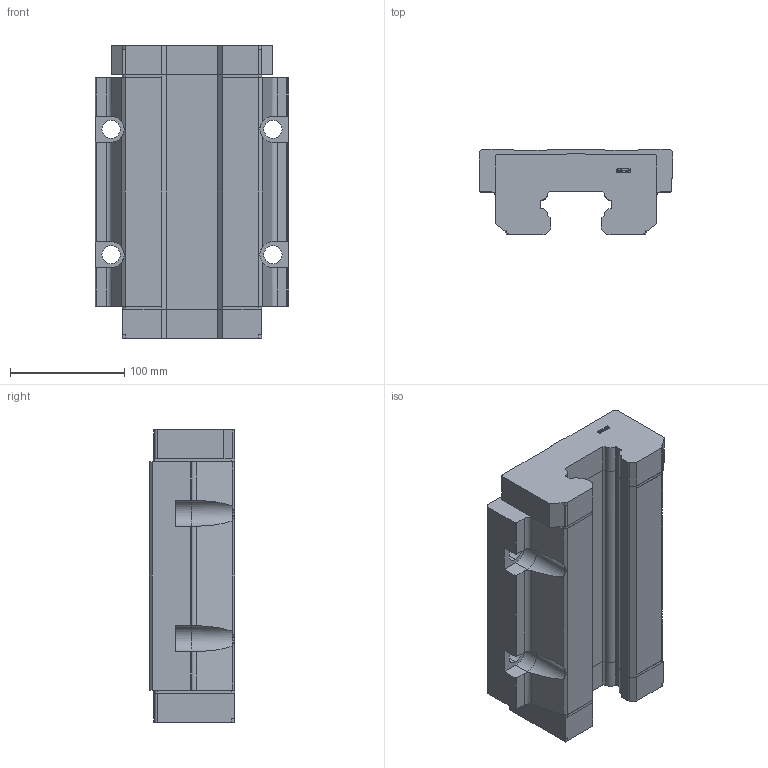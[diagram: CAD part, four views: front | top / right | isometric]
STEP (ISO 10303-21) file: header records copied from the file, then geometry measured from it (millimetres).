
FILE_DESCRIPTION (( 'STEP AP203' ), '1' );
FILE_NAME ('SMH65AL.STEP', '2019-09-23T09:02:20', ( 'pgos' ), ( '' ), 'SwSTEP 2.0', 'SolidWorks 2014', '' );
FILE_SCHEMA (( 'CONFIG_CONTROL_DESIGN' ));
Length unit declared in the file: millimetre
Products named in the file (1): SMH65AL
Bounding box: 170 x 75 x 256.2 mm (x, y, z)
Volume: 2195650.8 mm3; surface area: 166954 mm2
Topology: 1 solids, 1 shells, 289 faces, 781 edges, 501 vertices
Faces by surface type: plane 205, cylinder 64, bspline 20
Entity records: 10820 total; most frequent: CARTESIAN_POINT 3720, ORIENTED_EDGE 1562, DIRECTION 1295, EDGE_CURVE 781, VECTOR 559, LINE 559, VERTEX_POINT 501, AXIS2_PLACEMENT_3D 368
